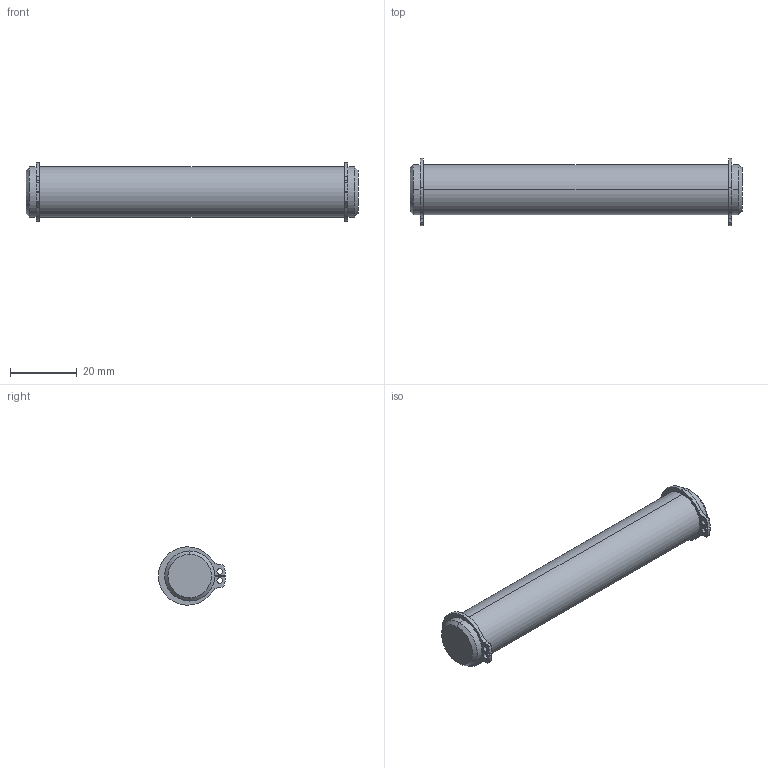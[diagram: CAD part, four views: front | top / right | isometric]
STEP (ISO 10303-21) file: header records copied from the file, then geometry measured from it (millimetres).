
FILE_DESCRIPTION (( 'STEP AP214' ), '1' );
FILE_NAME ('900.300.102-1.STEP', '2015-02-23T15:41:56', ( '' ), ( '' ), 'SwSTEP 2.0', 'SolidWorks 2012', '' );
FILE_SCHEMA (( 'AUTOMOTIVE_DESIGN' ));
Length unit declared in the file: millimetre
Products named in the file (3): 900.300.003; circlip for shafts normal_din_Circlip DIN 471 - 15 x 1; 900.300.102-1
Assembly tree (3 placements, depth 2):
  900.300.102-1
    900.300.003
    circlip for shafts normal_din_Circlip DIN 471 - 15 x 1  x2
Bounding box: 99.5 x 20.1 x 17.51 mm (x, y, z)
Volume: 17688.5 mm3; surface area: 5649 mm2
Topology: 3 solids, 3 shells, 72 faces, 174 edges, 112 vertices
Faces by surface type: cylinder 42, plane 18, torus 8, cone 4
Entity records: 1560 total; most frequent: DIRECTION 298, CARTESIAN_POINT 242, ORIENTED_EDGE 228, AXIS2_PLACEMENT_3D 128, EDGE_CURVE 114, CIRCLE 72, VERTEX_POINT 72, EDGE_LOOP 58
